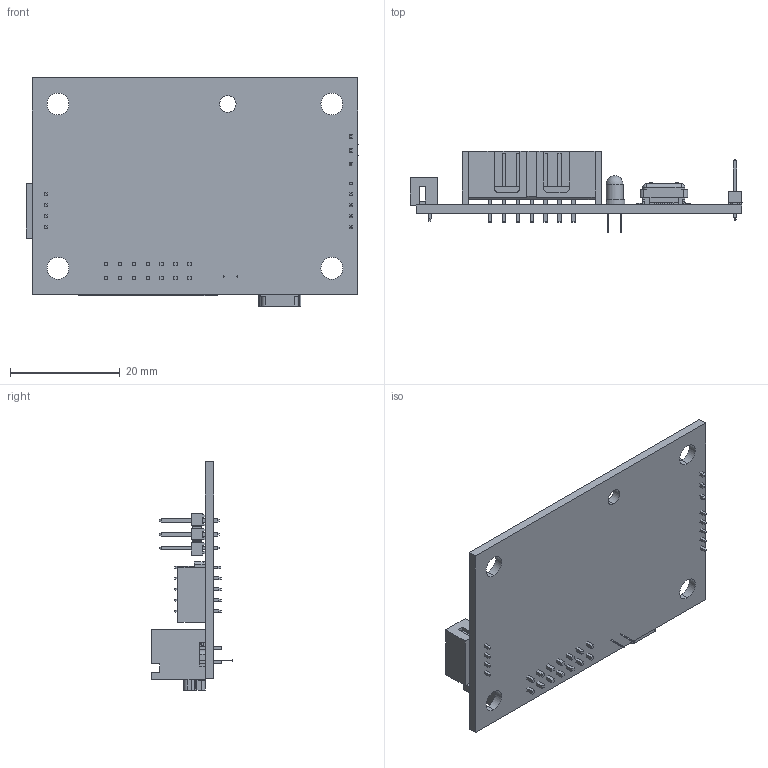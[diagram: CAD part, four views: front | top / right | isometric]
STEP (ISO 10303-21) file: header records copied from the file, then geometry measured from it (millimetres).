
FILE_DESCRIPTION (( 'STEP AP214' ), '1' );
FILE_NAME ('ACE-SDC-V3.STEP', '2014-08-29T05:45:38', ( '' ), ( '' ), 'SwSTEP 2.0', 'SolidWorks 2008', '' );
FILE_SCHEMA (( 'AUTOMOTIVE_DESIGN' ));
Length unit declared in the file: millimetre
Products named in the file (8): DF3A-4P-2DSA-4pin; c-1734035-2-e-usb; c-5103309-02-b-14pin; ACE-SDC-V3-board; ACE-SDC-V3; SLR-342VR3F-led; TSW-103-07-X-S-3pin; NRPN051PAEN-RC-5pin
Assembly tree (7 placements, depth 2):
  ACE-SDC-V3
    ACE-SDC-V3-board
    c-1734035-2-e-usb
    DF3A-4P-2DSA-4pin
    c-5103309-02-b-14pin
    TSW-103-07-X-S-3pin
    SLR-342VR3F-led
    NRPN051PAEN-RC-5pin
Bounding box: 60.62 x 14.86 x 41.65 mm (x, y, z)
Volume: 4980 mm3; surface area: 7948 mm2
Topology: 7 solids, 7 shells, 1022 faces, 2610 edges, 1661 vertices
Faces by surface type: plane 848, cylinder 152, bspline 12, cone 8, sphere 2
Entity records: 35671 total; most frequent: CARTESIAN_POINT 5895, ORIENTED_EDGE 5212, DIRECTION 4894, EDGE_CURVE 2606, VECTOR 2250, LINE 2250, VERTEX_POINT 1659, AXIS2_PLACEMENT_3D 1322
